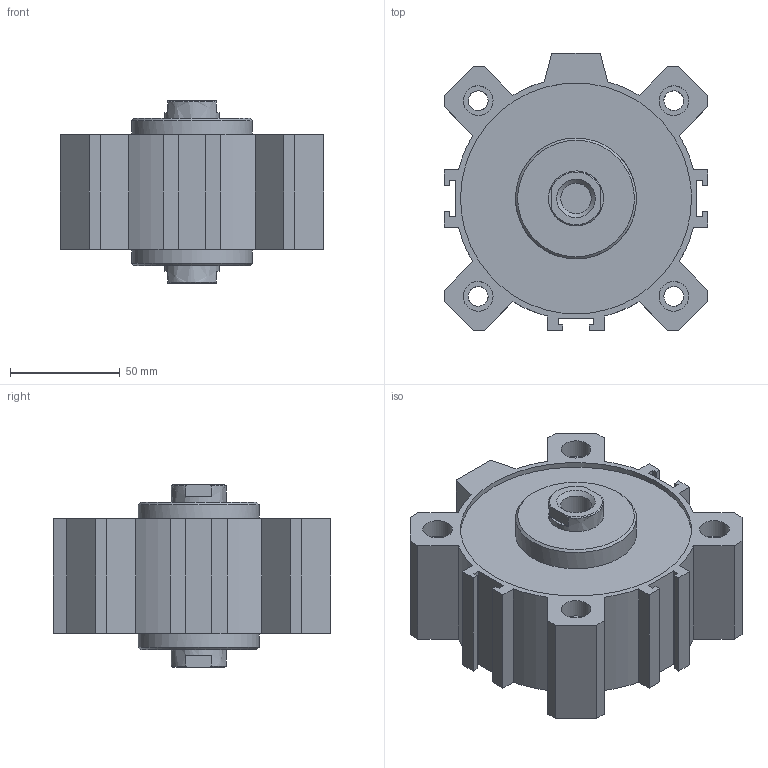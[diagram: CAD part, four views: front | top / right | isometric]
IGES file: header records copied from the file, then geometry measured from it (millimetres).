
Global section: file name: 1514_100_0000; native system: Autodesk Inventor 2014; preprocessor: unknown; author: A. Manieri; date: 20160824.162834; units: millimetre
Bounding box: 120 x 126 x 83 mm (x, y, z)
Volume: 611947 mm3; surface area: 119508.7 mm2
Topology: 2 solids, 2 shells, 132 faces, 346 edges, 238 vertices
Faces by surface type: bspline 132
